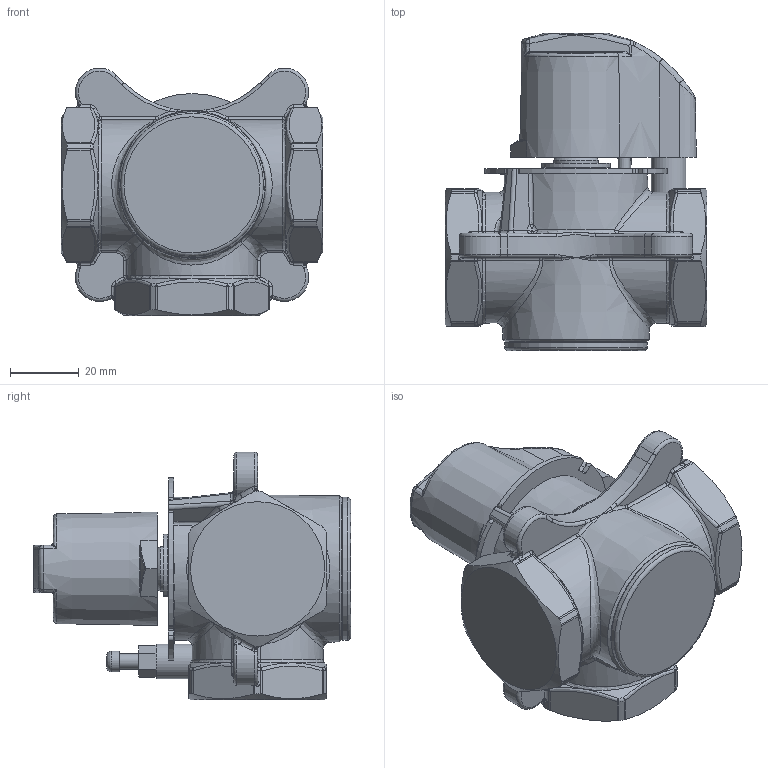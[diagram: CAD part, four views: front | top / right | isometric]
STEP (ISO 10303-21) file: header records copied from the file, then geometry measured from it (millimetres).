
FILE_DESCRIPTION(('STEP AP203'), '1');
FILE_NAME('VT.MIX03.G.05', '2025-11-14T13:47:16', ('verevichevva'), ('Vesta'), 'C3D Converter', 'C3D Toolkit', '');
FILE_SCHEMA(('CONFIG_CONTROL_DESIGN'));
Length unit declared in the file: millimetre
Products named in the file (1): Parte3
Bounding box: 76 x 92.1 x 71.84 mm (x, y, z)
Volume: 190091.9 mm3; surface area: 29524.3 mm2
Topology: 1 solids, 1 shells, 747 faces, 1875 edges, 1128 vertices
Faces by surface type: bspline 247, plane 199, cylinder 167, torus 53, cone 43, sphere 38
Full cylindrical faces by diameter (mm): 4.5 x1, 6 x1, 10 x2, 13 x1, 41.5 x1
Entity records: 45871 total; most frequent: CARTESIAN_POINT 30221, ORIENTED_EDGE 3666, DIRECTION 2514, EDGE_CURVE 1833, VERTEX_POINT 1127, AXIS2_PLACEMENT_3D 941, EDGE_LOOP 792, FACE_BOUND 775
